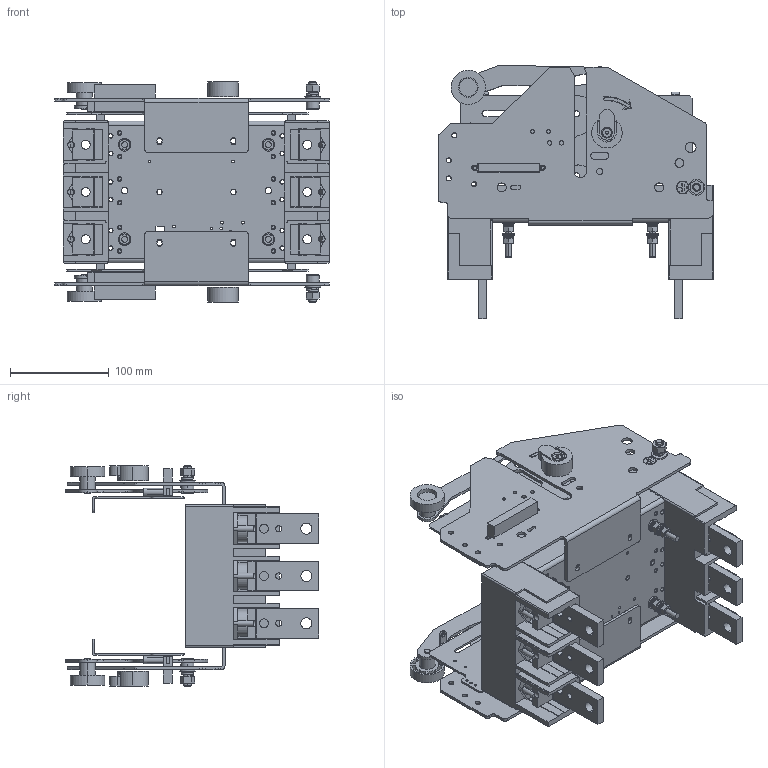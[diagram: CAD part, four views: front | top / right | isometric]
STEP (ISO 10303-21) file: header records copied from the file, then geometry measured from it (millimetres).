
FILE_DESCRIPTION (( 'STEP AP214' ), '1' );
FILE_NAME ('Êîðçèíà âûêàòíàÿ TEM5E-630 3P.STEP', '2026-07-06T07:12:50', ( '' ), ( '' ), 'SwSTEP 2.0', 'SolidWorks 2024', '' );
FILE_SCHEMA (( 'AUTOMOTIVE_DESIGN' ));
Length unit declared in the file: millimetre
Products named in the file (4): крепления.STEP; Корзина выкатная TEM5E-630 3P.STEP; TEM5E-630.STEP; Корзина выкатная TEM5E-630 3P
Assembly tree (6 placements, depth 3):
  Корзина выкатная TEM5E-630 3P
    Корзина выкатная TEM5E-630 3P.STEP
      TEM5E-630.STEP
      крепления.STEP  x4
Bounding box: 279.1 x 257.08 x 224 mm (x, y, z)
Volume: 1527996.6 mm3; surface area: 661703.9 mm2
Topology: 63 solids, 81 shells, 2910 faces, 7669 edges, 5062 vertices
Faces by surface type: plane 1490, cylinder 1127, bspline 129, torus 96, cone 48, sphere 20
Entity records: 99481 total; most frequent: CARTESIAN_POINT 25747, DIRECTION 15167, ORIENTED_EDGE 15158, EDGE_CURVE 7579, AXIS2_PLACEMENT_3D 5256, VERTEX_POINT 5002, LINE 4655, VECTOR 4655
